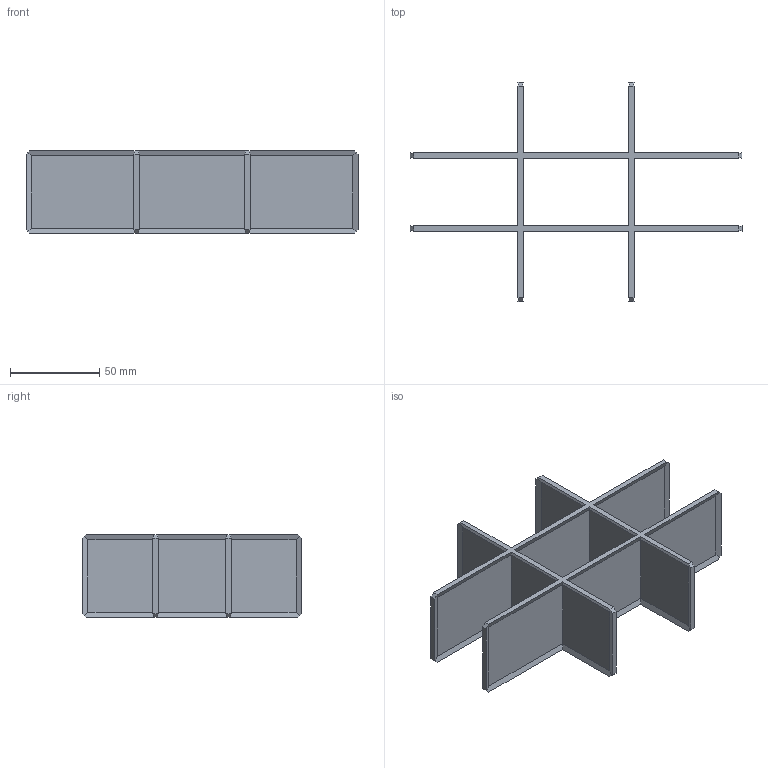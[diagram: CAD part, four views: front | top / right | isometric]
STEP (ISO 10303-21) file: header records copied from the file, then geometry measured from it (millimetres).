
FILE_DESCRIPTION(/* description */ (''),/* implementation_level */ '2;1');
FILE_NAME(/* name */ 'StackDrawerBox2-divider.step',/* time_stamp */ '2024-07-04T20:58:14+02:00',/* author */ (''),/* organization */ (''),/* preprocessor_version */ 'ST-DEVELOPER v20',/* originating_system */ 'Autodesk Translation Framework v13.14.0.145',/* authorisation */ '');
FILE_SCHEMA (('AUTOMOTIVE_DESIGN { 1 0 10303 214 3 1 1 }'));
Length unit declared in the file: millimetre
Products named in the file (2): StackDrawerBox2-base2 (v2~recovered); Component9
Assembly tree (1 placements, depth 2):
  StackDrawerBox2-base2 (v2~recovered)
    Component9
Bounding box: 186.4 x 122.9 x 46.5 mm (x, y, z)
Volume: 27928.5 mm3; surface area: 62041.6 mm2
Topology: 1 solids, 1 shells, 114 faces, 304 edges, 192 vertices
Faces by surface type: plane 114
Entity records: 3489 total; most frequent: CARTESIAN_POINT 613, ORIENTED_EDGE 608, DIRECTION 538, LINE 304, VECTOR 304, EDGE_CURVE 304, VERTEX_POINT 192, AXIS2_PLACEMENT_3D 117
